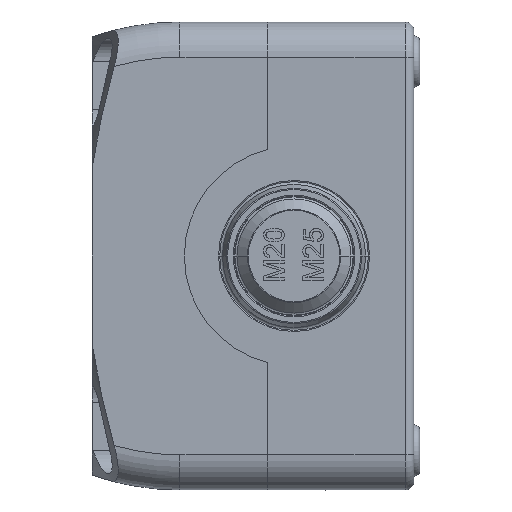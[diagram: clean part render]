
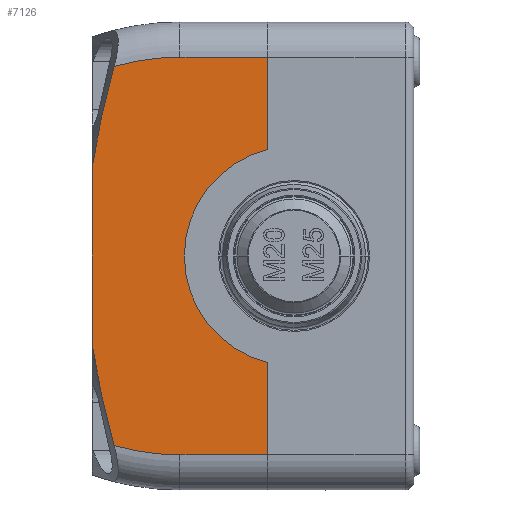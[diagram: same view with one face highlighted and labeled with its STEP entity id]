
A CAD part, left-side view. The second image highlights one B-rep face of the part: STEP entity #7126.
In plain terms, the highlighted planar face has unit normal (-1, 0, 0) as drawn and (0, 0, -1) by its records, which use the part's own axes.
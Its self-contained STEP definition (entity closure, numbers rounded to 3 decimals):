
#682 = ORIENTED_EDGE ( 'NONE', *, *, #26872, .T. ) ;
#1565 = CARTESIAN_POINT ( 'NONE',  ( 0., -15., -36. ) ) ;
#1676 = CARTESIAN_POINT ( 'NONE',  ( 0., -19.5, -36. ) ) ;
#1751 = EDGE_CURVE ( 'NONE', #13234, #17422, #15817, .T. ) ;
#1838 = AXIS2_PLACEMENT_3D ( 'NONE', #1676, #20092, #4344 ) ;
#1855 = CARTESIAN_POINT ( 'NONE',  ( 32.396, 11.249, -36. ) ) ;
#2348 = CARTESIAN_POINT ( 'NONE',  ( -32.396, 11.249, -36. ) ) ;
#2640 = ORIENTED_EDGE ( 'NONE', *, *, #12312, .F. ) ;
#4344 = DIRECTION ( 'NONE',  ( 1., 0., 0. ) ) ;
#4891 = CARTESIAN_POINT ( 'NONE',  ( 6.25, 0., -36. ) ) ;
#4905 = CARTESIAN_POINT ( 'NONE',  ( -15.124, 15., -36. ) ) ;
#4910 = CARTESIAN_POINT ( 'NONE',  ( 34., -15., -36. ) ) ;
#5160 = ORIENTED_EDGE ( 'NONE', *, *, #29423, .F. ) ;
#6146 = CARTESIAN_POINT ( 'NONE',  ( -6.25, 0., -36. ) ) ;
#6357 = CIRCLE ( 'NONE', #27598, 40.25 ) ;
#7126 = ADVANCED_FACE ( 'NONE', ( #8116 ), #20337, .T. ) ;
#7512 = EDGE_CURVE ( 'NONE', #28409, #10833, #23285, .T. ) ;
#7532 = DIRECTION ( 'NONE',  ( 1., 0., 0. ) ) ;
#7549 = CARTESIAN_POINT ( 'NONE',  ( -18.056, 14.56, -36. ) ) ;
#8116 = FACE_OUTER_BOUND ( 'NONE', #9892, .T. ) ;
#8808 = DIRECTION ( 'NONE',  ( -1., 0., 0. ) ) ;
#9236 = ORIENTED_EDGE ( 'NONE', *, *, #19631, .T. ) ;
#9417 = CARTESIAN_POINT ( 'NONE',  ( 26.709, 12.744, -36. ) ) ;
#9628 = ORIENTED_EDGE ( 'NONE', *, *, #7512, .T. ) ;
#9892 = EDGE_LOOP ( 'NONE', ( #18402, #13594, #24704, #20616, #2640, #5160, #9236, #682, #26227, #9628 ) ) ;
#9893 = VECTOR ( 'NONE', #26143, 1000. ) ;
#10111 = VERTEX_POINT ( 'NONE', #11441 ) ;
#10833 = VERTEX_POINT ( 'NONE', #21238 ) ;
#11441 = CARTESIAN_POINT ( 'NONE',  ( -32.396, 11.249, -36. ) ) ;
#12073 = CARTESIAN_POINT ( 'NONE',  ( 32.396, 11.249, -36. ) ) ;
#12312 = EDGE_CURVE ( 'NONE', #19398, #10111, #27364, .T. ) ;
#12695 = VERTEX_POINT ( 'NONE', #1855 ) ;
#13009 = LINE ( 'NONE', #14446, #33134 ) ;
#13051 = VERTEX_POINT ( 'NONE', #29758 ) ;
#13234 = VERTEX_POINT ( 'NONE', #33776 ) ;
#13594 = ORIENTED_EDGE ( 'NONE', *, *, #1751, .F. ) ;
#13641 = EDGE_CURVE ( 'NONE', #20326, #28409, #16917, .T. ) ;
#13996 = CIRCLE ( 'NONE', #1838, 18.75 ) ;
#14446 = CARTESIAN_POINT ( 'NONE',  ( -34., -15., -36. ) ) ;
#15202 = DIRECTION ( 'NONE',  ( 0., 0., -1. ) ) ;
#15509 = CARTESIAN_POINT ( 'NONE',  ( -20.957, 14.01, -36. ) ) ;
#15817 = LINE ( 'NONE', #29630, #22772 ) ;
#16034 = CIRCLE ( 'NONE', #23689, 40.25 ) ;
#16240 = EDGE_CURVE ( 'NONE', #10833, #17422, #13996, .T. ) ;
#16468 = DIRECTION ( 'NONE',  ( 1., 0., 0. ) ) ;
#16881 = DIRECTION ( 'NONE',  ( -1., 0., 0. ) ) ;
#16917 = LINE ( 'NONE', #4910, #9893 ) ;
#17251 = CARTESIAN_POINT ( 'NONE',  ( 34., 0., -36. ) ) ;
#17422 = VERTEX_POINT ( 'NONE', #30067 ) ;
#18149 = CARTESIAN_POINT ( 'NONE',  ( -29.561, 12.027, -36. ) ) ;
#18402 = ORIENTED_EDGE ( 'NONE', *, *, #16240, .T. ) ;
#18994 = LINE ( 'NONE', #19409, #25937 ) ;
#19398 = VERTEX_POINT ( 'NONE', #28934 ) ;
#19409 = CARTESIAN_POINT ( 'NONE',  ( 0., 15., -36. ) ) ;
#19631 = EDGE_CURVE ( 'NONE', #13051, #12695, #27868, .T. ) ;
#19883 = CARTESIAN_POINT ( 'NONE',  ( 15.124, 15., -36. ) ) ;
#20092 = DIRECTION ( 'NONE',  ( 0., 0., 1. ) ) ;
#20326 = VERTEX_POINT ( 'NONE', #17251 ) ;
#20337 = PLANE ( 'NONE',  #26450 ) ;
#20616 = ORIENTED_EDGE ( 'NONE', *, *, #32563, .F. ) ;
#21238 = CARTESIAN_POINT ( 'NONE',  ( 18.202, -15., -36. ) ) ;
#21764 = CARTESIAN_POINT ( 'NONE',  ( 34., -15., -36. ) ) ;
#22496 = VECTOR ( 'NONE', #22614, 1000. ) ;
#22614 = DIRECTION ( 'NONE',  ( -1., 0., 0. ) ) ;
#22772 = VECTOR ( 'NONE', #16468, 1000. ) ;
#23258 = DIRECTION ( 'NONE',  ( 0., 0., 1. ) ) ;
#23285 = LINE ( 'NONE', #1565, #22496 ) ;
#23689 = AXIS2_PLACEMENT_3D ( 'NONE', #4891, #23258, #7532 ) ;
#24511 = DIRECTION ( 'NONE',  ( 0., 0., -1. ) ) ;
#24704 = ORIENTED_EDGE ( 'NONE', *, *, #25259, .F. ) ;
#25135 = CARTESIAN_POINT ( 'NONE',  ( 20.957, 14.01, -36. ) ) ;
#25259 = EDGE_CURVE ( 'NONE', #29307, #13234, #13009, .T. ) ;
#25937 = VECTOR ( 'NONE', #16881, 1000. ) ;
#26143 = DIRECTION ( 'NONE',  ( 0., -1., 0. ) ) ;
#26227 = ORIENTED_EDGE ( 'NONE', *, *, #13641, .T. ) ;
#26450 = AXIS2_PLACEMENT_3D ( 'NONE', #28239, #15202, #33543 ) ;
#26872 = EDGE_CURVE ( 'NONE', #12695, #20326, #6357, .T. ) ;
#27364 = B_SPLINE_CURVE_WITH_KNOTS ( 'NONE', 3,
 ( #4905, #7549, #15509, #33845, #18149, #2348 ),
 .UNSPECIFIED., .F., .F.,
 ( 4, 2, 4 ),
 ( 0.04, 0.049, 0.058 ),
 .UNSPECIFIED. ) ;
#27598 = AXIS2_PLACEMENT_3D ( 'NONE', #6146, #24511, #8808 ) ;
#27784 = CARTESIAN_POINT ( 'NONE',  ( 29.561, 12.027, -36. ) ) ;
#27868 = B_SPLINE_CURVE_WITH_KNOTS ( 'NONE', 3,
 ( #19883, #32955, #25135, #9417, #27784, #12073 ),
 .UNSPECIFIED., .F., .F.,
 ( 4, 2, 4 ),
 ( 0.04, 0.049, 0.058 ),
 .UNSPECIFIED. ) ;
#28239 = CARTESIAN_POINT ( 'NONE',  ( 6.25, 0., -36. ) ) ;
#28409 = VERTEX_POINT ( 'NONE', #21764 ) ;
#28934 = CARTESIAN_POINT ( 'NONE',  ( -15.124, 15., -36. ) ) ;
#29307 = VERTEX_POINT ( 'NONE', #32251 ) ;
#29423 = EDGE_CURVE ( 'NONE', #13051, #19398, #18994, .T. ) ;
#29630 = CARTESIAN_POINT ( 'NONE',  ( 0., -15., -36. ) ) ;
#29758 = CARTESIAN_POINT ( 'NONE',  ( 15.124, 15., -36. ) ) ;
#30067 = CARTESIAN_POINT ( 'NONE',  ( -18.202, -15., -36. ) ) ;
#32251 = CARTESIAN_POINT ( 'NONE',  ( -34., 0., -36. ) ) ;
#32563 = EDGE_CURVE ( 'NONE', #10111, #29307, #16034, .T. ) ;
#32771 = DIRECTION ( 'NONE',  ( 0., -1., 0. ) ) ;
#32955 = CARTESIAN_POINT ( 'NONE',  ( 18.056, 14.56, -36. ) ) ;
#33134 = VECTOR ( 'NONE', #32771, 1000. ) ;
#33543 = DIRECTION ( 'NONE',  ( 1., 0., 0. ) ) ;
#33776 = CARTESIAN_POINT ( 'NONE',  ( -34., -15., -36. ) ) ;
#33845 = CARTESIAN_POINT ( 'NONE',  ( -26.709, 12.744, -36. ) ) ;
